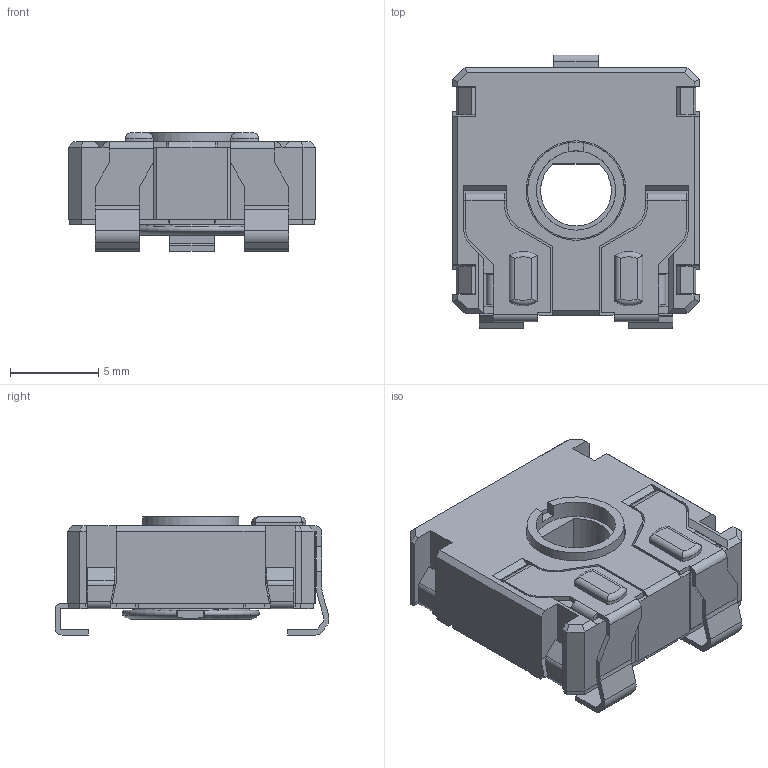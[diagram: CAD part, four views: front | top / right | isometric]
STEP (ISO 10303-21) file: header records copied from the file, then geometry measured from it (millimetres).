
FILE_DESCRIPTION(/* description */ (''),/* implementation_level */ '2;1');
FILE_NAME(/* name */ 'C:\Users\CEM\Desktop\ENVIAR\TRANSICION 3D CATALOGOS\CS14FVSMD.stp',/* time_stamp */ '2025-10-24T17:47:10+02:00',/* author */ ('CEM'),/* organization */ (''),/* preprocessor_version */ 'ST-DEVELOPER v17',/* originating_system */ 'Autodesk Inventor 2018',/* authorisation */ '');
FILE_SCHEMA (('AUTOMOTIVE_DESIGN { 1 0 10303 214 3 1 1 }'));
Length unit declared in the file: millimetre
Products named in the file (1): CS14FVSMD
Bounding box: 14 x 15.55 x 6.7 mm (x, y, z)
Volume: 550.8 mm3; surface area: 1598.2 mm2
Topology: 1 solids, 3 shells, 638 faces, 1800 edges, 1157 vertices
Faces by surface type: plane 489, cylinder 115, cone 15, bspline 10, torus 9
Full cylindrical faces by diameter (mm): 4.5 x1, 5.5 x1, 5.65 x1, 6.87 x1
Entity records: 21386 total; most frequent: CARTESIAN_POINT 4023, ORIENTED_EDGE 3600, DIRECTION 3328, EDGE_CURVE 1800, LINE 1420, VECTOR 1420, VERTEX_POINT 1157, AXIS2_PLACEMENT_3D 954
